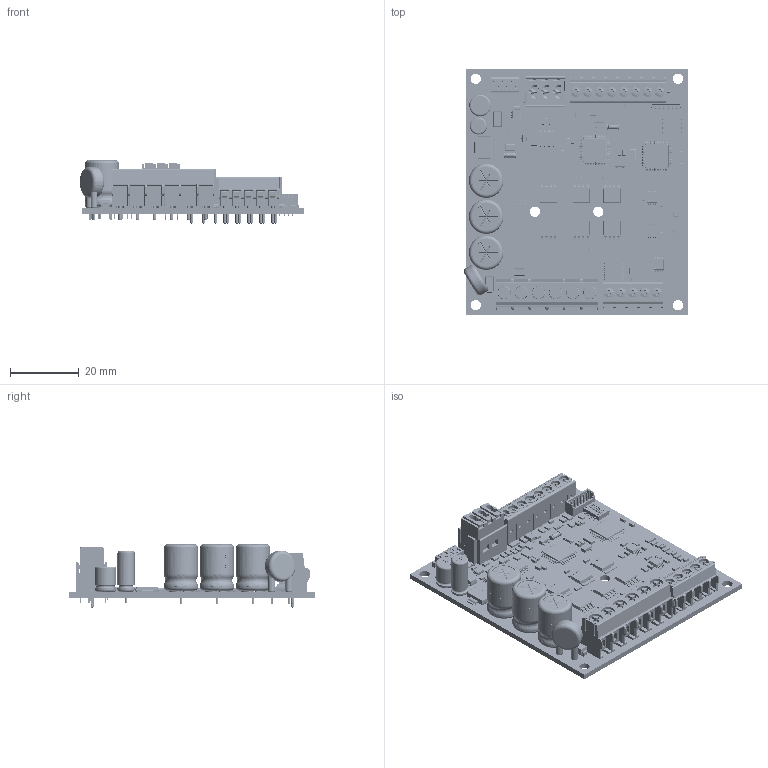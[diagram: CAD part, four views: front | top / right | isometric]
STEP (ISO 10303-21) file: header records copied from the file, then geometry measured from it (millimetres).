
FILE_DESCRIPTION(('STEP AP214'),'1');
FILE_NAME('EM-352_3D.step','2020-09-02T07:51:31',(' '),(' '),'Spatial InterOp 3D','XD3DPlugin XRACreate',' ');
FILE_SCHEMA(('automotive_design'));
Length unit declared in the file: millimetre
Products named in the file (187): Submodel-AssyDefn_1; pxc_1891072_01_FK-MPT-0-5-3-3-5_3D.sat; EM-352_3D; Submodel-C:\Users\Electromen\works\3D kokeiluja\EM-352 v2_PCB\3D\Input_S\SOT669.xtd; SOT669; Submodel-PSMN025-80YL_SOT669_NMOS-80V-0.025R_part_simplified_SOT669; DesignRootModel; Submodel-C:\Users\Electromen\works\3D kokeiluja\EM-352 v2_PCB\3D\Input_S\varistor 30VAC.xtd; varistor 30VAC; Submodel-VDR_RAD_30VAC38VDC2J_part_simplified_VDR-RAD-7.6_slash_2.6_slash_5.1; Submodel-C:\Users\Electromen\works\3D kokeiluja\EM-352 v2_PCB\3D\Input_S\CAP 0603_3.xtd; CAP 0603_3; Submodel-CAP0603_10NF_part_simplified_0603; Submodel-C:\Users\Electromen\works\3D kokeiluja\EM-352 v2_PCB\3D\Input_S\c-7-215079-6-t-3d.xtd; c-7-215079-6-t-3d; Submodel-7-215079-6_V_CON_MICROMATCH6_part_simplified_DIL6-V-2.54-MMATCH; Submodel-C:\Users\Electromen\works\3D kokeiluja\EM-352 v2_PCB\3D\Input_S\cay16.xtd; cay16; Submodel-RES1206_4X47K_SEP_part_simplified_CAY16; Submodel-C:\Users\Electromen\works\3D kokeiluja\EM-352 v2_PCB\3D\Input_S\CAP 1206_0.xtd; CAP 1206_0; Submodel-CAP1206_470NF_part_simplified_1206; Submodel-C:\Users\Electromen\works\3D kokeiluja\EM-352 v2_PCB\3D\Input_S\RES 0805_2.xtd; RES 0805_2; Submodel-RES0805_10K_part_simplified_0805; Submodel-C:\Users\Electromen\works\3D kokeiluja\EM-352 v2_PCB\3D\Input_S\LED RED 0603.xtd; LED RED 0603; Submodel-WL-SMCW_0603_LED-RED_part_simplified_0603_LED; Submodel-C:\Users\Electromen\works\3D kokeiluja\EM-352 v2_PCB\3D\Input_S\DO219AB.xtd; DO219AB; Submodel-RS07J-GS08_1A600V_DO219AB-2_part_simplified_DO-219AB-SMF; Submodel-C:\Users\Electromen\works\3D kokeiluja\EM-352 v2_PCB\3D\Input_S\RES 1206.xtd; RES 1206; Submodel-RES1206_47R_part_simplified_1206; Submodel-RES1206_1K5_part_simplified_1206; Submodel-C:\Users\Electromen\works\3D kokeiluja\EM-352 v2_PCB\3D\Input_S\RES 0805_6.xtd; RES 0805_6; Submodel-RES0805_47K_part_simplified_0805; Submodel-C:\Users\Electromen\works\3D kokeiluja\EM-352 v2_PCB\3D\Input_S\RES 0805_8.xtd; RES 0805_8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
Assembly tree (271 placements, depth 5):
  EM-352_3D
    Submodel-AssyDefn_1
      pxc_1891072_01_FK-MPT-0-5-3-3-5_3D.sat
    DesignRootModel
      Submodel-PSMN025-80YL_SOT669_NMOS-80V-0.025R_part_simplified_SOT669  x7
        Submodel-C:\Users\Electromen\works\3D kokeiluja\EM-352 v2_PCB\3D\Input_S\SOT669.xtd
          SOT669
      Submodel-VDR_RAD_30VAC38VDC2J_part_simplified_VDR-RAD-7.6_slash_2.6_slash_5.1
        Submodel-C:\Users\Electromen\works\3D kokeiluja\EM-352 v2_PCB\3D\Input_S\varistor 30VAC.xtd
          varistor 30VAC
      Submodel-CAP0603_10NF_part_simplified_0603  x2
        Submodel-C:\Users\Electromen\works\3D kokeiluja\EM-352 v2_PCB\3D\Input_S\CAP 0603_3.xtd
          CAP 0603_3
      Submodel-7-215079-6_V_CON_MICROMATCH6_part_simplified_DIL6-V-2.54-MMATCH
        Submodel-C:\Users\Electromen\works\3D kokeiluja\EM-352 v2_PCB\3D\Input_S\c-7-215079-6-t-3d.xtd
          c-7-215079-6-t-3d
      Submodel-RES1206_4X47K_SEP_part_simplified_CAY16
        Submodel-C:\Users\Electromen\works\3D kokeiluja\EM-352 v2_PCB\3D\Input_S\cay16.xtd
          cay16
      Submodel-CAP1206_470NF_part_simplified_1206  x2
        Submodel-C:\Users\Electromen\works\3D kokeiluja\EM-352 v2_PCB\3D\Input_S\CAP 1206_0.xtd
          CAP 1206_0
      Submodel-RES0805_10K_part_simplified_0805  x11
        Submodel-C:\Users\Electromen\works\3D kokeiluja\EM-352 v2_PCB\3D\Input_S\RES 0805_2.xtd
          RES 0805_2
      Submodel-WL-SMCW_0603_LED-RED_part_simplified_0603_LED
        Submodel-C:\Users\Electromen\works\3D kokeiluja\EM-352 v2_PCB\3D\Input_S\LED RED 0603.xtd
          LED RED 0603
      Submodel-RS07J-GS08_1A600V_DO219AB-2_part_simplified_DO-219AB-SMF  x2
        Submodel-C:\Users\Electromen\works\3D kokeiluja\EM-352 v2_PCB\3D\Input_S\DO219AB.xtd
          DO219AB
      Submodel-RES1206_47R_part_simplified_1206  x3
        Submodel-C:\Users\Electromen\works\3D kokeiluja\EM-352 v2_PCB\3D\Input_S\RES 1206.xtd
          RES 1206
      Submodel-RES1206_1K5_part_simplified_1206
        Submodel-C:\Users\Electromen\works\3D kokeiluja\EM-352 v2_PCB\3D\Input_S\RES 1206.xtd
          RES 1206
      Submodel-RES0805_47K_part_simplified_0805  x3
        Submodel-C:\Users\Electromen\works\3D kokeiluja\EM-352 v2_PCB\3D\Input_S\RES 0805_6.xtd
          RES 0805_6
      Submodel-RES0805_3K3_part_simplified_0805  x2
        Submodel-C:\Users\Electromen\works\3D kokeiluja\EM-352 v2_PCB\3D\Input_S\RES 0805_8.xtd
          RES 0805_8
      Submodel-RES0805_2K2_part_simplified_0805  x2
        Submodel-C:\Users\Electromen\works\3D kokeiluja\EM-352 v2_PCB\3D\Input_S\RES 0805_0.xtd
          RES 0805_0
      Submodel-RES0805_1M_part_simplified_0805
        Submodel-C:\Users\Electromen\works\3D kokeiluja\EM-352 v2_PCB\3D\Input_S\RES-0805.xtd
          RES-0805
      Submodel-RES0805_1K_part_simplified_0805  x5
        Submodel-C:\Users\Electromen\works\3D kokeiluja\EM-352 v2_PCB\3D\Input_S\RES 0805_1.xtd
          RES 0805_1
      Submodel-RES0805_15K_part_simplified_0805  x2
        Submodel-C:\Users\Electromen\works\3D kokeiluja\EM-352 v2_PCB\3D\Input_S\RES-0805.xtd
          RES-0805
      Submodel-RES0805_100R_part_simplified_0805  x7
        Submodel-C:\Users\Electromen\works\3D kokeiluja\EM-352 v2_PCB\3D\Input_S\RES 0805_3.xtd
          RES 0805_3
      Submodel-NTC_0805_100K_part_simplified_0805
        Submodel-C:\Users\Electromen\works\3D kokeiluja\EM-352 v2_PCB\3D\Input_S\RES 0805_5.xtd
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Bounding box: 65.53 x 72 x 18.5 mm (x, y, z)
Volume: 16329.8 mm3; surface area: 27269.5 mm2
Topology: 373 solids, 376 shells, 20327 faces, 53359 edges, 33465 vertices
Faces by surface type: plane 12572, cylinder 4900, torus 1013, sphere 888, bspline 772, cone 182
Full cylindrical faces by diameter (mm): 0.6 x2, 2 x4, 3 x6, 9 x2
Entity records: 1060528 total; most frequent: ORIENTED_EDGE 187092, DIRECTION 165555, CARTESIAN_POINT 117048, EDGE_CURVE 93546, LINE 86657, VECTOR 86657, VERTEX_POINT 61957, AXIS2_PLACEMENT_3D 39449
